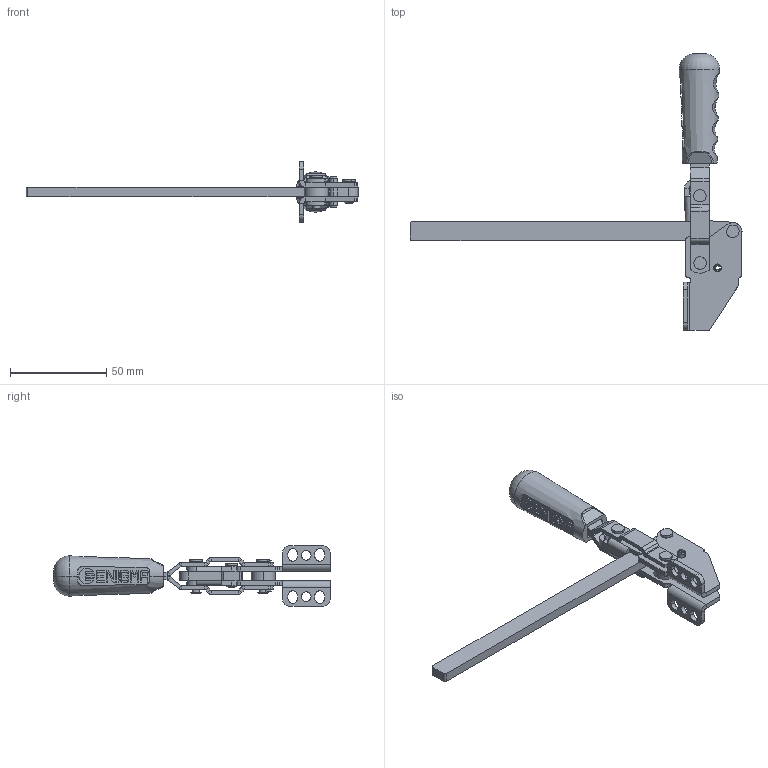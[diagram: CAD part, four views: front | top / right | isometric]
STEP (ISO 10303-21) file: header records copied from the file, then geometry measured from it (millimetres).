
FILE_DESCRIPTION (( 'STEP AP214' ), '1' );
FILE_NAME ('1101-A-L.STEP', '2022-05-30T09:57:47', ( '' ), ( '' ), 'SwSTEP 2.0', 'SolidWorks 2020', '' );
FILE_SCHEMA (( 'AUTOMOTIVE_DESIGN' ));
Length unit declared in the file: millimetre
Products named in the file (13): 1101_A_GÖVDE; Ø12,5xØ7,5x5_YÜZÜK; C55_Yeni_Tutamak; 4x17_PERﾇﾝN; 1101 HAREKET KOLU_2022; Aynalama1101_A_GÖVDE; Aynalama1101 HAREKET KOLU_2022; 1101 MAFSAL_2022; 4x16_YARIKLI_P嵱; 4x12_5_PERﾇﾝN; 1101 LAMA BASKI KOLU; 1101-A-L; 7x4x10_BURÇ
Assembly tree (14 placements, depth 2):
  1101-A-L
    1101 HAREKET KOLU_2022
    1101 MAFSAL_2022
    4x12_5_PERﾇﾝN  x2
    4x17_PERﾇﾝN  x2
    7x4x10_BURÇ
    Ø12,5xØ7,5x5_YÜZÜK
    Aynalama1101 HAREKET KOLU_2022
    4x16_YARIKLI_P嵱
    C55_Yeni_Tutamak
    1101 LAMA BASKI KOLU
    1101_A_GÖVDE
    Aynalama1101_A_GÖVDE
Bounding box: 172.75 x 143.9 x 31.46 mm (x, y, z)
Volume: 35533.7 mm3; surface area: 27329.7 mm2
Topology: 14 solids, 14 shells, 823 faces, 2061 edges, 1300 vertices
Faces by surface type: plane 530, cylinder 216, torus 34, bspline 27, cone 16
Entity records: 24137 total; most frequent: CARTESIAN_POINT 6292, ORIENTED_EDGE 3562, DIRECTION 3549, EDGE_CURVE 1781, VECTOR 1223, LINE 1223, AXIS2_PLACEMENT_3D 1163, VERTEX_POINT 1124
